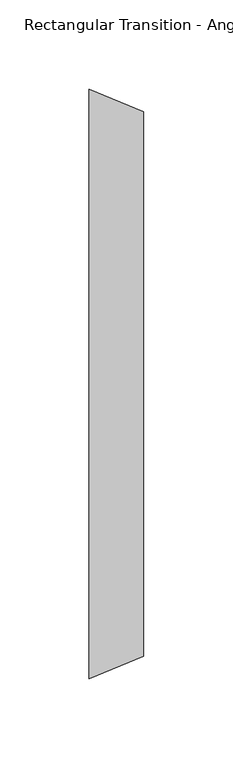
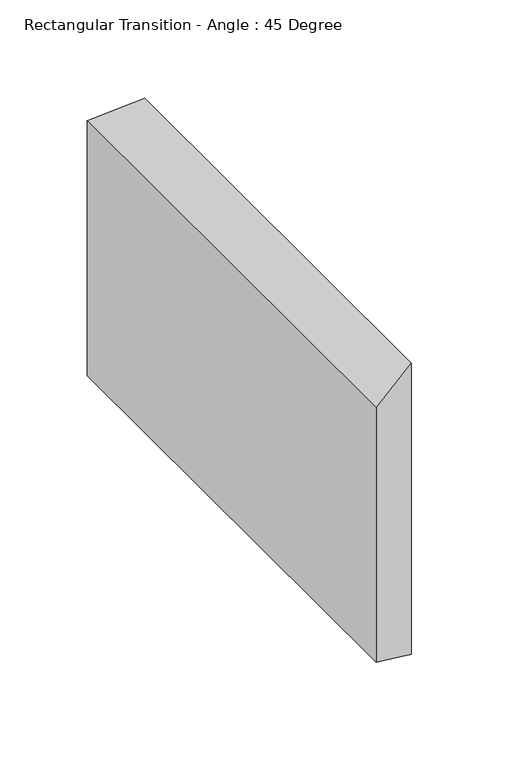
"""IFC4 building model written with IfcOpenShell, lengths in millimetres: duct fitting geometry, Rectangular Transition - Angle : 45 Degree."""

from ifc_helpers import new_model, si_unit, origin, place, context, project, spatial, faceted_brep, source, transform, mapped, element, save


def rectangular_transition_angle_45_degree_0521c937(model_context):
    return source(origin(), model_context, "Body", "Brep", [
        faceted_brep([(30.6605122, -152.4, 101.6), (30.6605122, -152.4, -101.6), (30.6605122, 152.4, -101.6), (30.6605122, 152.4, 101.6), (0.0, -165.1, 88.9), (0.0, 165.1, 88.9), (0.0, 165.1, -88.9), (0.0, -165.1, -88.9)], [[[0, 1, 2, 3]], [[4, 5, 6, 7]], [[4, 7, 1, 0]], [[7, 6, 2, 1]], [[6, 5, 3, 2]], [[5, 4, 0, 3]]]),
    ])


if __name__ == "__main__":
    model = new_model("IFC4")
    model_context = context("Model", 3, world=origin())
    ifc_project = project(units=[si_unit("LENGTHUNIT", "METRE", prefix="MILLI")], contexts=[model_context])
    site = spatial("IfcSite", under=ifc_project)
    building = spatial("IfcBuilding", under=site)
    placement = place(None, origin())
    rectangular_transition_angle_45_degree_shape = rectangular_transition_angle_45_degree_0521c937(model_context)
    element("IfcDuctFitting", 1, ObjectType="Rectangular Transition - Angle : 45 Degree", at=placement, inside=building, context=model_context, shape_type="MappedRepresentation", body=[
        mapped(rectangular_transition_angle_45_degree_shape, transform((0.0, 0.0, 0.0), x_axis=(1.0, 0.0, 0.0), y_axis=(0.0, 1.0, 0.0), z_axis=(0.0, 0.0, 1.0))),
    ])
    save(model, "model.ifc")
